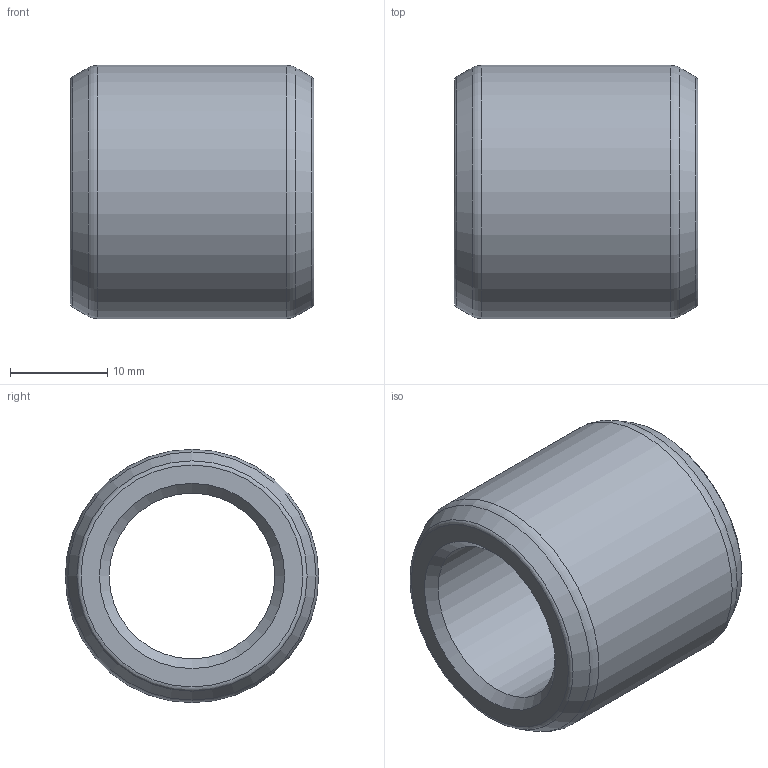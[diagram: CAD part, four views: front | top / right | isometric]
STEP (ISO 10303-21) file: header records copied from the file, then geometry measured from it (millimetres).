
FILE_DESCRIPTION(/* description */ (''),/* implementation_level */ '2;1');
FILE_NAME(/* name */ '',/* time_stamp */ '2025-03-27T10:20:52+09:00',/* author */ ('jhkim'),/* organization */ (''),/* preprocessor_version */ 'ST-DEVELOPER v20',/* originating_system */ 'Autodesk Inventor 2025',/* authorisation */ '');
FILE_SCHEMA (('AUTOMOTIVE_DESIGN { 1 0 10303 214 3 1 1 }'));
Length unit declared in the file: millimetre
Products named in the file (1): 칼라
Bounding box: 25 x 26 x 26 mm (x, y, z)
Volume: 7296.3 mm3; surface area: 3743 mm2
Topology: 1 solids, 1 shells, 12 faces, 28 edges, 18 vertices
Faces by surface type: torus 4, cone 4, plane 2, cylinder 2
Full cylindrical faces by diameter (mm): 17 x1, 26 x1
Entity records: 405 total; most frequent: DIRECTION 76, CARTESIAN_POINT 59, ORIENTED_EDGE 56, AXIS2_PLACEMENT_3D 35, EDGE_CURVE 28, CIRCLE 22, VERTEX_POINT 18, EDGE_LOOP 14
